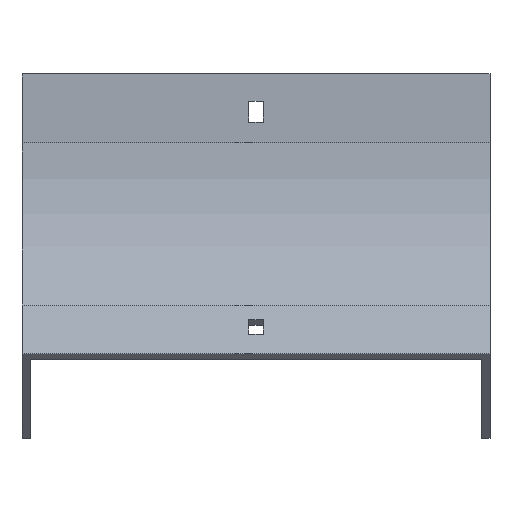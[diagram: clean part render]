
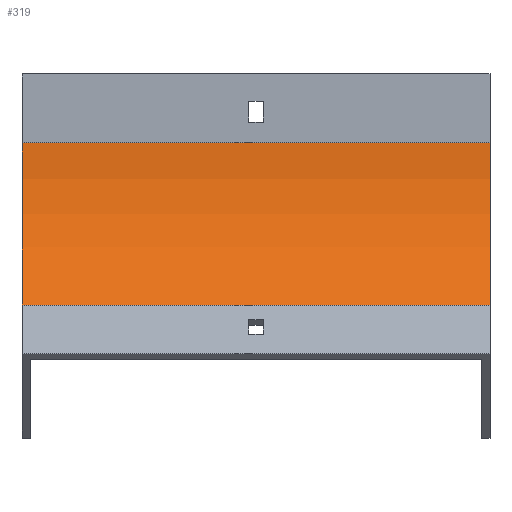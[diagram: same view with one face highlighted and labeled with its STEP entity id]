
A CAD part, front view. The second image highlights one B-rep face of the part: STEP entity #319.
In plain terms, the highlighted cylindrical face has radius 100 mm (diameter 200 mm), a partial arc.
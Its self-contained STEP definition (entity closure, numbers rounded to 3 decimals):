
#8 = EDGE_CURVE ( 'NONE', #619, #219, #979, .T. ) ;
#94 = ORIENTED_EDGE ( 'NONE', *, *, #434, .F. ) ;
#135 = CARTESIAN_POINT ( 'NONE',  ( -102., -29.289, -100.711 ) ) ;
#180 = CIRCLE ( 'NONE', #521, 100. ) ;
#181 = VERTEX_POINT ( 'NONE', #785 ) ;
#184 = DIRECTION ( 'NONE',  ( -1., 0., 0. ) ) ;
#194 = AXIS2_PLACEMENT_3D ( 'NONE', #395, #282, #1040 ) ;
#205 = CARTESIAN_POINT ( 'NONE',  ( 102., -100., -30. ) ) ;
#214 = CARTESIAN_POINT ( 'NONE',  ( 102., -29.289, -100.711 ) ) ;
#219 = VERTEX_POINT ( 'NONE', #135 ) ;
#233 = DIRECTION ( 'NONE',  ( -1., 0., 0. ) ) ;
#282 = DIRECTION ( 'NONE',  ( -1., 0., 0. ) ) ;
#289 = FACE_OUTER_BOUND ( 'NONE', #559, .T. ) ;
#319 = ADVANCED_FACE ( 'NONE', ( #289 ), #618, .F. ) ;
#320 = DIRECTION ( 'NONE',  ( 0., 0., 1. ) ) ;
#347 = DIRECTION ( 'NONE',  ( -1., 0., 0. ) ) ;
#395 = CARTESIAN_POINT ( 'NONE',  ( 102., -100., -30. ) ) ;
#434 = EDGE_CURVE ( 'NONE', #181, #619, #614, .T. ) ;
#521 = AXIS2_PLACEMENT_3D ( 'NONE', #532, #1402, #850 ) ;
#532 = CARTESIAN_POINT ( 'NONE',  ( -102., -100., -30. ) ) ;
#559 = EDGE_LOOP ( 'NONE', ( #1216, #1352, #94, #1314 ) ) ;
#583 = CARTESIAN_POINT ( 'NONE',  ( 102., -29.289, -100.711 ) ) ;
#592 = EDGE_CURVE ( 'NONE', #1403, #219, #180, .T. ) ;
#614 = CIRCLE ( 'NONE', #1110, 100. ) ;
#618 = CYLINDRICAL_SURFACE ( 'NONE', #194, 100. ) ;
#619 = VERTEX_POINT ( 'NONE', #214 ) ;
#785 = CARTESIAN_POINT ( 'NONE',  ( 102., 0., -30. ) ) ;
#850 = DIRECTION ( 'NONE',  ( 0., 0., 1. ) ) ;
#868 = LINE ( 'NONE', #1095, #1299 ) ;
#979 = LINE ( 'NONE', #583, #1225 ) ;
#1027 = CARTESIAN_POINT ( 'NONE',  ( -102., 0., -30. ) ) ;
#1040 = DIRECTION ( 'NONE',  ( 0., 0., 1. ) ) ;
#1095 = CARTESIAN_POINT ( 'NONE',  ( 102., 0., -30. ) ) ;
#1110 = AXIS2_PLACEMENT_3D ( 'NONE', #205, #184, #320 ) ;
#1216 = ORIENTED_EDGE ( 'NONE', *, *, #592, .T. ) ;
#1225 = VECTOR ( 'NONE', #347, 1000. ) ;
#1299 = VECTOR ( 'NONE', #233, 1000. ) ;
#1314 = ORIENTED_EDGE ( 'NONE', *, *, #1365, .T. ) ;
#1352 = ORIENTED_EDGE ( 'NONE', *, *, #8, .F. ) ;
#1365 = EDGE_CURVE ( 'NONE', #181, #1403, #868, .T. ) ;
#1402 = DIRECTION ( 'NONE',  ( -1., 0., 0. ) ) ;
#1403 = VERTEX_POINT ( 'NONE', #1027 ) ;
